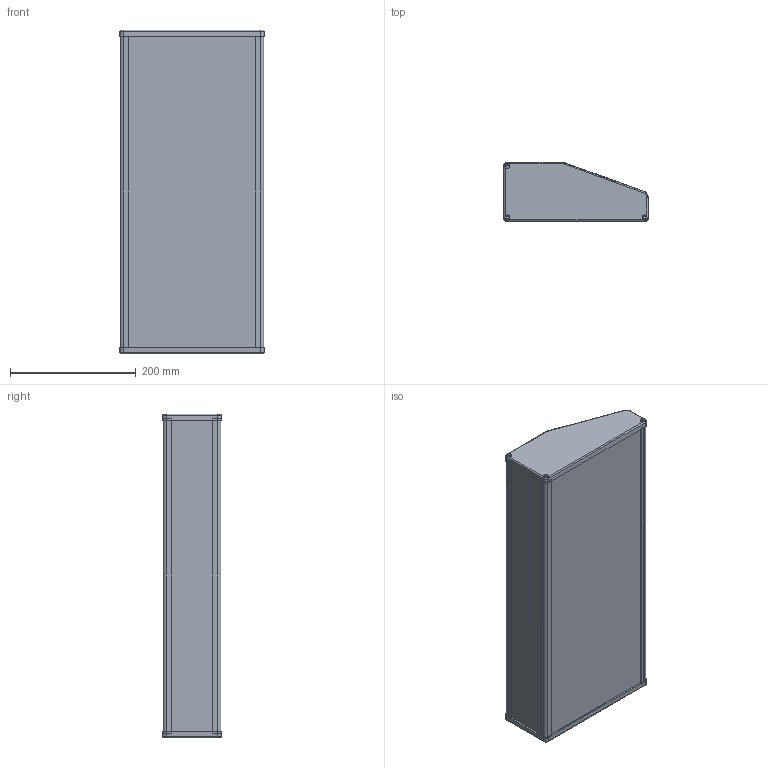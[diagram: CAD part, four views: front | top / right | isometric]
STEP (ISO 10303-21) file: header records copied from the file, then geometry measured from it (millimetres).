
FILE_DESCRIPTION (( 'STEP AP203' ), '1' );
FILE_NAME ('MM-239-50.STEP', '2020-10-21T09:10:35', ( '' ), ( '' ), 'SwSTEP 2.0', 'SolidWorks 2020', '' );
FILE_SCHEMA (( 'CONFIG_CONTROL_DESIGN' ));
Length unit declared in the file: millimetre
Products named in the file (7): taban_sac^MM-239-0-0; kapak_1; arka_sac^MM-239-0-0; AL-011_profil; MM-239-50; kapak_2; ust_sac^MM-239-0-0
Assembly tree (8 placements, depth 2):
  MM-239-50
    AL-011_profil  x3
    ust_sac^MM-239-0-0
    taban_sac^MM-239-0-0
    arka_sac^MM-239-0-0
    kapak_1
    kapak_2
Bounding box: 230 x 94 x 514.8 mm (x, y, z)
Volume: 632859.1 mm3; surface area: 768507 mm2
Topology: 8 solids, 8 shells, 456 faces, 1212 edges, 794 vertices
Faces by surface type: plane 238, cylinder 188, cone 20, torus 10
Entity records: 11683 total; most frequent: CARTESIAN_POINT 1977, DIRECTION 1960, ORIENTED_EDGE 1824, EDGE_CURVE 912, AXIS2_PLACEMENT_3D 709, VERTEX_POINT 594, VECTOR 542, LINE 542
